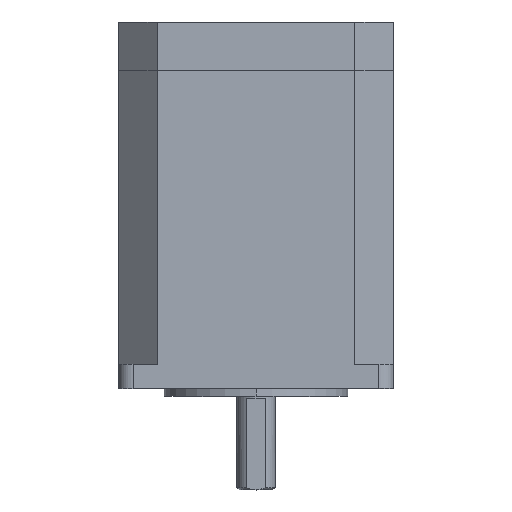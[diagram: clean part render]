
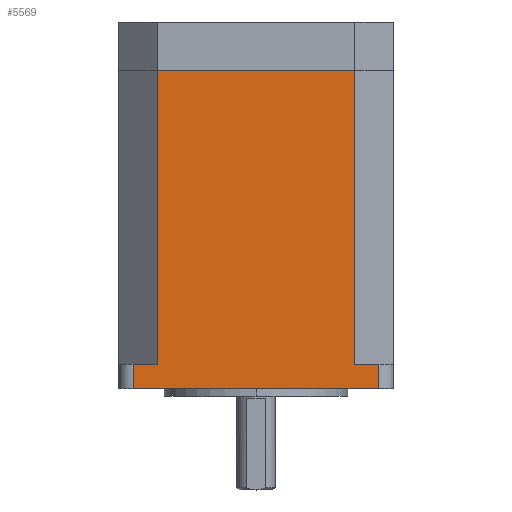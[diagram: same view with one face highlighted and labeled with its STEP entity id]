
A CAD part, top view. The second image highlights one B-rep face of the part: STEP entity #5569.
In plain terms, the highlighted planar face has unit normal (0, 0, 1).
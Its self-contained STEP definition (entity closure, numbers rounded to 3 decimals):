
#21 = VECTOR ( 'NONE', #3190, 1000. ) ;
#22 = CARTESIAN_POINT ( 'NONE',  ( 16.447, -21.491, 36.465 ) ) ;
#31 = VERTEX_POINT ( 'NONE', #4448 ) ;
#65 = DIRECTION ( 'NONE',  ( 0., 1., 0. ) ) ;
#214 = CARTESIAN_POINT ( 'NONE',  ( -37.553, 39.509, 36.465 ) ) ;
#252 = FACE_OUTER_BOUND ( 'NONE', #3557, .T. ) ;
#270 = CARTESIAN_POINT ( 'NONE',  ( 11.447, -21.491, 36.465 ) ) ;
#308 = DIRECTION ( 'NONE',  ( -1., 0., 0. ) ) ;
#411 = VECTOR ( 'NONE', #2047, 1000. ) ;
#634 = DIRECTION ( 'NONE',  ( 0., 1., 0. ) ) ;
#666 = CARTESIAN_POINT ( 'NONE',  ( -34.553, -26.491, 36.465 ) ) ;
#760 = CARTESIAN_POINT ( 'NONE',  ( -37.553, 39.509, 36.465 ) ) ;
#930 = EDGE_CURVE ( 'NONE', #1092, #1784, #3862, .T. ) ;
#931 = ORIENTED_EDGE ( 'NONE', *, *, #2612, .F. ) ;
#1081 = EDGE_CURVE ( 'NONE', #1092, #3192, #3266, .T. ) ;
#1092 = VERTEX_POINT ( 'NONE', #22 ) ;
#1095 = LINE ( 'NONE', #214, #411 ) ;
#1348 = CARTESIAN_POINT ( 'NONE',  ( -37.553, -21.491, 36.465 ) ) ;
#1434 = DIRECTION ( 'NONE',  ( -1., 0., 0. ) ) ;
#1442 = ORIENTED_EDGE ( 'NONE', *, *, #4325, .T. ) ;
#1488 = CARTESIAN_POINT ( 'NONE',  ( -34.553, -21.491, 36.465 ) ) ;
#1515 = LINE ( 'NONE', #3722, #5048 ) ;
#1784 = VERTEX_POINT ( 'NONE', #5635 ) ;
#1840 = ORIENTED_EDGE ( 'NONE', *, *, #930, .T. ) ;
#2047 = DIRECTION ( 'NONE',  ( 1., 0., 0. ) ) ;
#2225 = VECTOR ( 'NONE', #1434, 1000. ) ;
#2426 = VECTOR ( 'NONE', #4094, 1000. ) ;
#2448 = EDGE_CURVE ( 'NONE', #2468, #4958, #2792, .T. ) ;
#2468 = VERTEX_POINT ( 'NONE', #1488 ) ;
#2612 = EDGE_CURVE ( 'NONE', #3940, #5659, #1095, .T. ) ;
#2792 = LINE ( 'NONE', #4086, #4315 ) ;
#2843 = EDGE_CURVE ( 'NONE', #4958, #3192, #4078, .T. ) ;
#3190 = DIRECTION ( 'NONE',  ( 1., 0., 0. ) ) ;
#3192 = VERTEX_POINT ( 'NONE', #3681 ) ;
#3209 = ORIENTED_EDGE ( 'NONE', *, *, #3994, .T. ) ;
#3266 = LINE ( 'NONE', #5035, #2426 ) ;
#3457 = DIRECTION ( 'NONE',  ( -1., 0., 0. ) ) ;
#3557 = EDGE_LOOP ( 'NONE', ( #5686, #3209, #4822, #4794, #3861, #1840, #1442, #931 ) ) ;
#3597 = CARTESIAN_POINT ( 'NONE',  ( -29.553, 39.509, 36.465 ) ) ;
#3673 = EDGE_CURVE ( 'NONE', #31, #3940, #4720, .T. ) ;
#3681 = CARTESIAN_POINT ( 'NONE',  ( 16.447, -26.491, 36.465 ) ) ;
#3722 = CARTESIAN_POINT ( 'NONE',  ( 11.447, -37.805, 36.465 ) ) ;
#3861 = ORIENTED_EDGE ( 'NONE', *, *, #1081, .F. ) ;
#3862 = LINE ( 'NONE', #270, #4027 ) ;
#3940 = VERTEX_POINT ( 'NONE', #3597 ) ;
#3994 = EDGE_CURVE ( 'NONE', #31, #2468, #5461, .T. ) ;
#4027 = VECTOR ( 'NONE', #3457, 1000. ) ;
#4078 = LINE ( 'NONE', #4627, #21 ) ;
#4086 = CARTESIAN_POINT ( 'NONE',  ( -34.553, 59.925, 36.465 ) ) ;
#4094 = DIRECTION ( 'NONE',  ( 0., -1., 0. ) ) ;
#4210 = CARTESIAN_POINT ( 'NONE',  ( -29.553, -37.805, 36.465 ) ) ;
#4315 = VECTOR ( 'NONE', #5508, 1000. ) ;
#4325 = EDGE_CURVE ( 'NONE', #1784, #5659, #1515, .T. ) ;
#4372 = DIRECTION ( 'NONE',  ( 0., 0., -1. ) ) ;
#4401 = VECTOR ( 'NONE', #634, 1000. ) ;
#4448 = CARTESIAN_POINT ( 'NONE',  ( -29.553, -21.491, 36.465 ) ) ;
#4627 = CARTESIAN_POINT ( 'NONE',  ( -37.553, -26.491, 36.465 ) ) ;
#4720 = LINE ( 'NONE', #4210, #4401 ) ;
#4794 = ORIENTED_EDGE ( 'NONE', *, *, #2843, .T. ) ;
#4815 = PLANE ( 'NONE',  #5784 ) ;
#4822 = ORIENTED_EDGE ( 'NONE', *, *, #2448, .T. ) ;
#4958 = VERTEX_POINT ( 'NONE', #666 ) ;
#5009 = CARTESIAN_POINT ( 'NONE',  ( 11.447, 39.509, 36.465 ) ) ;
#5035 = CARTESIAN_POINT ( 'NONE',  ( 16.447, 59.925, 36.465 ) ) ;
#5048 = VECTOR ( 'NONE', #65, 1000. ) ;
#5461 = LINE ( 'NONE', #1348, #2225 ) ;
#5508 = DIRECTION ( 'NONE',  ( 0., -1., 0. ) ) ;
#5569 = ADVANCED_FACE ( 'NONE', ( #252 ), #4815, .F. ) ;
#5635 = CARTESIAN_POINT ( 'NONE',  ( 11.447, -21.491, 36.465 ) ) ;
#5659 = VERTEX_POINT ( 'NONE', #5009 ) ;
#5686 = ORIENTED_EDGE ( 'NONE', *, *, #3673, .F. ) ;
#5784 = AXIS2_PLACEMENT_3D ( 'NONE', #760, #4372, #308 ) ;
